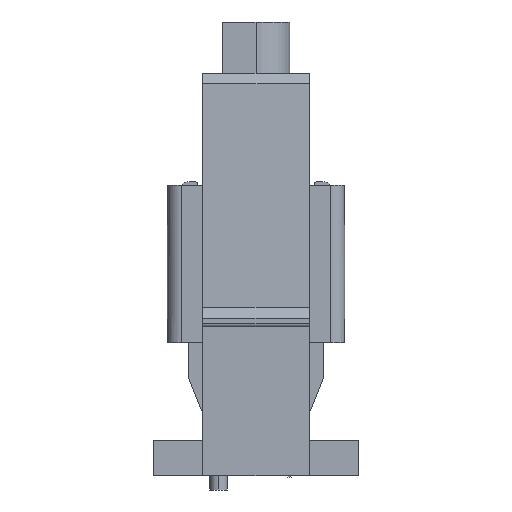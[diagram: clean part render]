
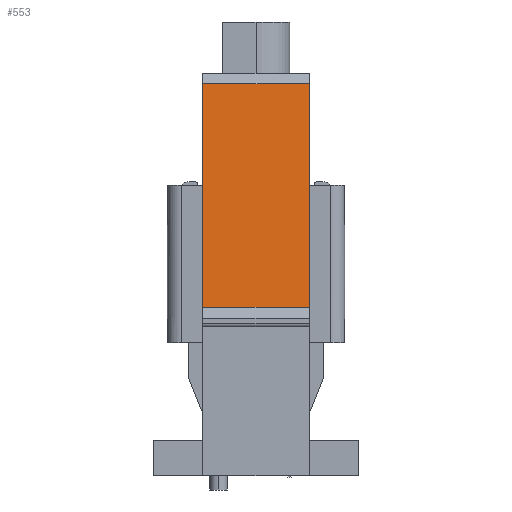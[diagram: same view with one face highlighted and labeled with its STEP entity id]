
A CAD part, left-side view. The second image highlights one B-rep face of the part: STEP entity #553.
In plain terms, the highlighted planar face has unit normal (-0.999, 0, 0.043).
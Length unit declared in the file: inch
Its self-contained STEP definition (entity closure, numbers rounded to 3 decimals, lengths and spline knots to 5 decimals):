
#60 = ORIENTED_EDGE ( 'NONE', *, *, #1250, .T. ) ;
#63 = ORIENTED_EDGE ( 'NONE', *, *, #1278, .T. ) ;
#416 = EDGE_CURVE ( 'NONE', #1224, #1283, #2688, .T. ) ;
#535 = EDGE_LOOP ( 'NONE', ( #60, #545, #63, #542 ) ) ;
#542 = ORIENTED_EDGE ( 'NONE', *, *, #416, .T. ) ;
#545 = ORIENTED_EDGE ( 'NONE', *, *, #570, .F. ) ;
#553 = ADVANCED_FACE ( 'NONE', ( #2887 ), #2852, .T. ) ;
#570 = EDGE_CURVE ( 'NONE', #1285, #1234, #2914, .T. ) ;
#1224 = VERTEX_POINT ( 'NONE', #4094 ) ;
#1234 = VERTEX_POINT ( 'NONE', #4081 ) ;
#1250 = EDGE_CURVE ( 'NONE', #1283, #1234, #4163, .T. ) ;
#1278 = EDGE_CURVE ( 'NONE', #1285, #1224, #4231, .T. ) ;
#1283 = VERTEX_POINT ( 'NONE', #4180 ) ;
#1285 = VERTEX_POINT ( 'NONE', #4226 ) ;
#2685 = DIRECTION ( 'NONE',  ( -0.043, 0., -0.999 ) ) ;
#2686 = VECTOR ( 'NONE', #2685, 39.37008 ) ;
#2687 = CARTESIAN_POINT ( 'NONE',  ( -0.563, 0.15, -0.805 ) ) ;
#2688 = LINE ( 'NONE', #2687, #2686 ) ;
#2852 = PLANE ( 'NONE',  #2890 ) ;
#2877 = DIRECTION ( 'NONE',  ( 0.043, 0., 0.999 ) ) ;
#2878 = DIRECTION ( 'NONE',  ( -0.999, 0., 0.043 ) ) ;
#2879 = CARTESIAN_POINT ( 'NONE',  ( -0.563, -0.15, -0.805 ) ) ;
#2887 = FACE_OUTER_BOUND ( 'NONE', #535, .T. ) ;
#2890 = AXIS2_PLACEMENT_3D ( 'NONE', #2879, #2878, #2877 ) ;
#2901 = DIRECTION ( 'NONE',  ( -0.043, 0., -0.999 ) ) ;
#2902 = VECTOR ( 'NONE', #2901, 39.37008 ) ;
#2904 = CARTESIAN_POINT ( 'NONE',  ( -0.536, -0.15, -0.174 ) ) ;
#2914 = LINE ( 'NONE', #2904, #2902 ) ;
#4081 = CARTESIAN_POINT ( 'NONE',  ( -0.563, -0.15, -0.805 ) ) ;
#4094 = CARTESIAN_POINT ( 'NONE',  ( -0.536, 0.15, -0.174 ) ) ;
#4150 = VECTOR ( 'NONE', #4165, 39.37008 ) ;
#4163 = LINE ( 'NONE', #4166, #4150 ) ;
#4165 = DIRECTION ( 'NONE',  ( 0., -1., 0. ) ) ;
#4166 = CARTESIAN_POINT ( 'NONE',  ( -0.563, -0.15, -0.805 ) ) ;
#4180 = CARTESIAN_POINT ( 'NONE',  ( -0.563, 0.15, -0.805 ) ) ;
#4226 = CARTESIAN_POINT ( 'NONE',  ( -0.536, -0.15, -0.174 ) ) ;
#4228 = DIRECTION ( 'NONE',  ( 0., 1., 0. ) ) ;
#4229 = VECTOR ( 'NONE', #4228, 39.37008 ) ;
#4230 = CARTESIAN_POINT ( 'NONE',  ( -0.536, -0.15, -0.174 ) ) ;
#4231 = LINE ( 'NONE', #4230, #4229 ) ;
